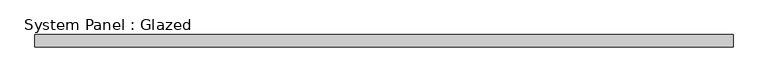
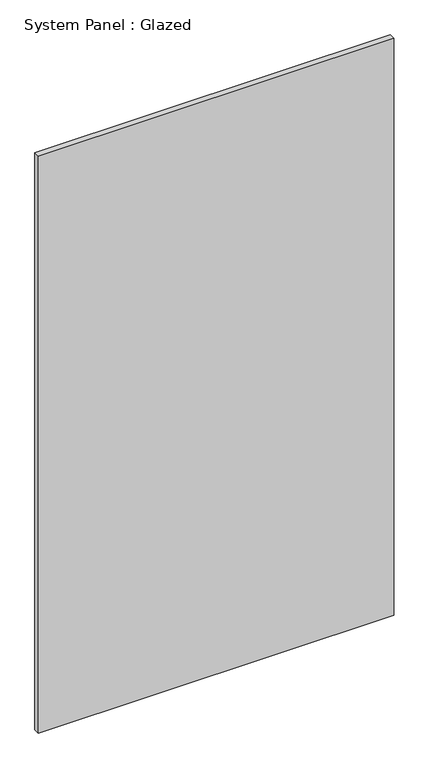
"""IFC4 building model written with IfcOpenShell, lengths in millimetres: plate geometry, System Panel : Glazed."""

from ifc_helpers import new_model, si_unit, origin, origin_with_axes, place, context, project, spatial, polyline, outline, extrude, source, transform, mapped, element, save


def system_panel_glazed_86ca5771(model_context):
    return source(origin(), model_context, "Body", "SweptSolid", [
        extrude(outline(polyline([(727.075, 19.05), (-727.075, 19.05), (-727.075, 44.45), (727.075, 44.45), (727.075, 19.05)])), origin_with_axes(), (0.0, 0.0, 1.0), 2495.55),
    ])


if __name__ == "__main__":
    model = new_model("IFC4")
    model_context = context("Model", 3, world=origin())
    ifc_project = project(units=[si_unit("LENGTHUNIT", "METRE", prefix="MILLI")], contexts=[model_context])
    site = spatial("IfcSite", under=ifc_project)
    building = spatial("IfcBuilding", under=site)
    placement = place(None, origin())
    system_panel_glazed_shape = system_panel_glazed_86ca5771(model_context)
    element("IfcPlate", 1, ObjectType="System Panel : Glazed", at=placement, inside=building, context=model_context, shape_type="MappedRepresentation", body=[
        mapped(system_panel_glazed_shape, transform((0.0, 0.0, 0.0), x_axis=(1.0, 0.0, 0.0), y_axis=(0.0, 1.0, 0.0), z_axis=(0.0, 0.0, 1.0))),
    ])
    save(model, "model.ifc")
